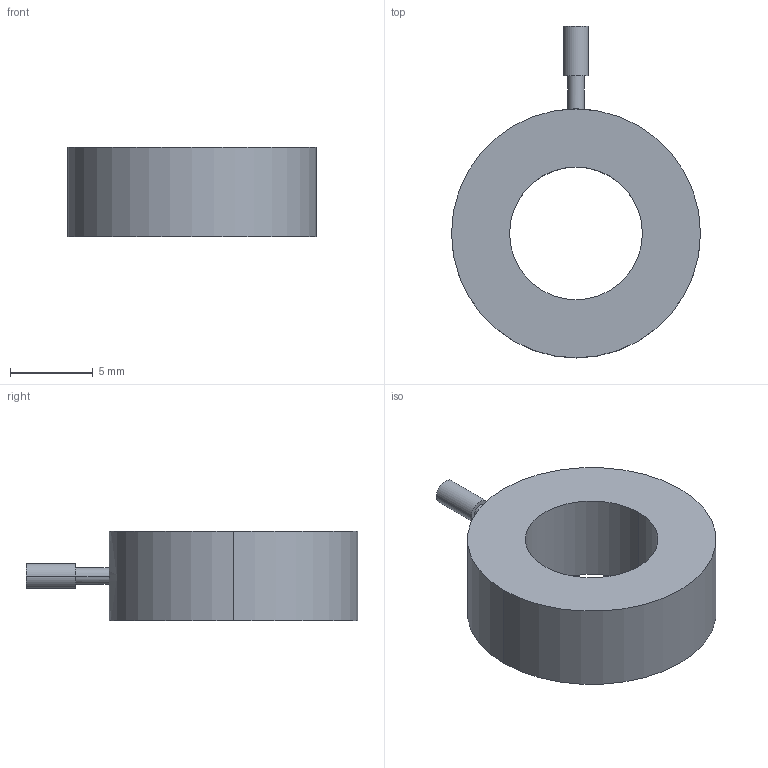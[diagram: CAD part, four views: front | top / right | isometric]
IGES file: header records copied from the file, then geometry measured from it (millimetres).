
Start section:  PTC IGES file: EID01S.igs
Global section: file name: EID01S.igs; native system: Pro/ENGINEER by Parametric Technology Corporation; preprocessor: 2006460; author: Owner; organization: Unknown; date: 20130730.114117; units: millimetre
Bounding box: 15 x 20 x 5.4 mm (x, y, z)
Surface area: 665.5 mm2 (no closed solid volume)
Topology: 0 solids, 0 shells, 12 faces, 48 edges, 48 vertices
Faces by surface type: revolution 8, bspline 4
